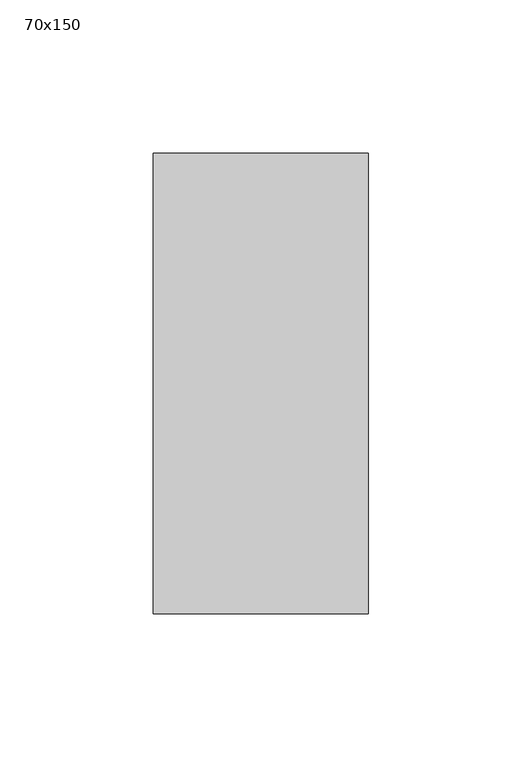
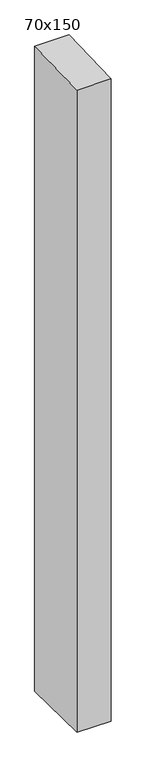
"""IFC4 building model written with IfcOpenShell, lengths in millimetres: member geometry, 長方形のマリオン : 70x150."""

from ifc_helpers import new_model, si_unit, frame, origin, place, context, project, spatial, polyline, outline, extrude, source, transform, mapped, element, save


def member_70x150_fafe4a5a(model_context):
    return source(origin(), model_context, "Body", "SweptSolid", [
        extrude(outline(polyline([(-75.0, -1.8591782), (75.0, 1.8591782), (75.0, -1393.0338973), (-75.0, -1391.5215645), (-75.0, -1.8591782)])), frame((-35.0, 0.0, 0.0), z_axis=(1.0, 0.0, 0.0), x_axis=(0.0, 1.0, 0.0)), (0.0, 0.0, 1.0), 70.0),
    ])


if __name__ == "__main__":
    model = new_model("IFC4")
    model_context = context("Model", 3, world=origin())
    ifc_project = project(units=[si_unit("LENGTHUNIT", "METRE", prefix="MILLI")], contexts=[model_context])
    site = spatial("IfcSite", under=ifc_project)
    building = spatial("IfcBuilding", under=site)
    placement = place(None, origin())
    member_70x150_shape = member_70x150_fafe4a5a(model_context)
    element("IfcMember", 1, ObjectType="長方形のマリオン : 70x150", at=placement, inside=building, context=model_context, shape_type="MappedRepresentation", body=[
        mapped(member_70x150_shape, transform((0.0, 0.0, 0.0), x_axis=(1.0, 0.0, 0.0), y_axis=(0.0, 1.0, 0.0), z_axis=(0.0, 0.0, 1.0))),
    ])
    save(model, "model.ifc")
